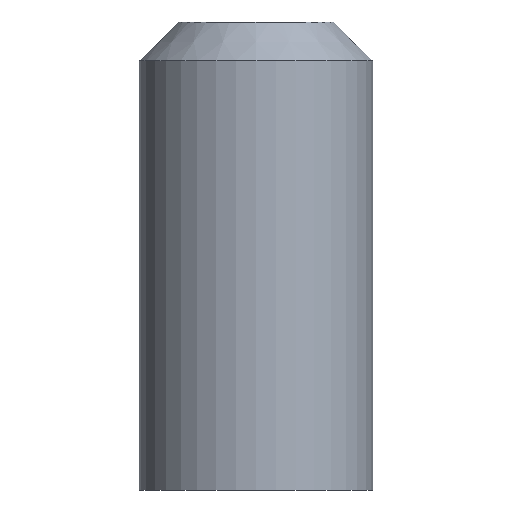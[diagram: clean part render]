
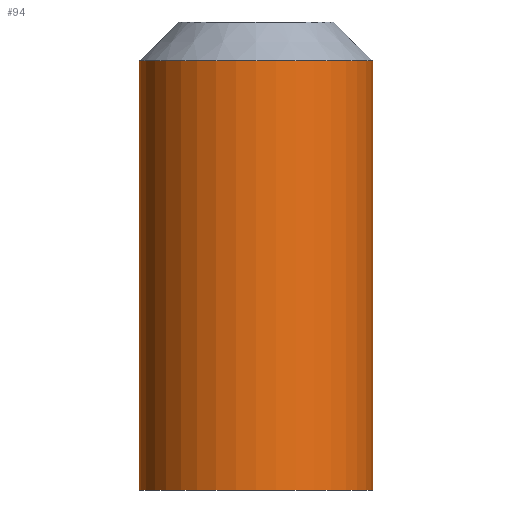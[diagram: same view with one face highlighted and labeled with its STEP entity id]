
A CAD part, front view. The second image highlights one B-rep face of the part: STEP entity #94.
In plain terms, the highlighted cylindrical face has radius 3 mm (diameter 6 mm), a full revolution.
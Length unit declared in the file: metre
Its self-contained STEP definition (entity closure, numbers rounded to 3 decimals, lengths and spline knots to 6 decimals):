
#13=CYLINDRICAL_SURFACE('',#152,0.003);
#14=CIRCLE('',#147,0.003);
#15=CIRCLE('',#149,0.003);
#17=CIRCLE('',#153,0.003);
#31=ORIENTED_EDGE('',*,*,#47,.T.);
#32=ORIENTED_EDGE('',*,*,#49,.T.);
#33=ORIENTED_EDGE('',*,*,#44,.T.);
#34=ORIENTED_EDGE('',*,*,#46,.T.);
#35=ORIENTED_EDGE('',*,*,#42,.T.);
#42=EDGE_CURVE('',#53,#52,#58,.T.);
#44=EDGE_CURVE('',#55,#54,#60,.T.);
#46=EDGE_CURVE('',#54,#53,#14,.T.);
#47=EDGE_CURVE('',#56,#56,#15,.T.);
#49=EDGE_CURVE('',#52,#55,#17,.T.);
#52=VERTEX_POINT('',#190);
#53=VERTEX_POINT('',#192);
#54=VERTEX_POINT('',#194);
#55=VERTEX_POINT('',#196);
#56=VERTEX_POINT('',#205);
#58=LINE('',#191,#62);
#60=LINE('',#195,#64);
#62=VECTOR('',#160,1.);
#64=VECTOR('',#162,1.);
#69=EDGE_LOOP('',(#31));
#70=EDGE_LOOP('',(#32,#33,#34,#35));
#76=FACE_BOUND('',#69,.T.);
#77=FACE_BOUND('',#70,.T.);
#94=ADVANCED_FACE('',(#76,#77),#13,.T.);
#147=AXIS2_PLACEMENT_3D('',#202,#165,#166);
#149=AXIS2_PLACEMENT_3D('',#204,#169,#170);
#152=AXIS2_PLACEMENT_3D('',#208,#175,#176);
#153=AXIS2_PLACEMENT_3D('',#209,#177,#178);
#160=DIRECTION('',(0.,0.,1.));
#162=DIRECTION('',(0.,0.,-1.));
#165=DIRECTION('',(0.,0.,-1.));
#166=DIRECTION('',(-1.,0.,0.));
#169=DIRECTION('',(0.,0.,1.));
#170=DIRECTION('',(1.,0.,0.));
#175=DIRECTION('',(0.,0.,-1.));
#176=DIRECTION('',(-1.,0.,0.));
#177=DIRECTION('',(0.,0.,-1.));
#178=DIRECTION('',(1.,0.,0.));
#190=CARTESIAN_POINT('',(-0.075422,-0.053656,0.033));
#191=CARTESIAN_POINT('',(-0.075422,-0.053656,0.034));
#192=CARTESIAN_POINT('',(-0.075422,-0.053656,0.024));
#194=CARTESIAN_POINT('',(-0.080618,-0.053656,0.024));
#195=CARTESIAN_POINT('',(-0.080618,-0.053656,0.034));
#196=CARTESIAN_POINT('',(-0.080618,-0.053656,0.033));
#202=CARTESIAN_POINT('',(-0.07802,-0.055156,0.024));
#204=CARTESIAN_POINT('',(-0.07802,-0.055156,0.022));
#205=CARTESIAN_POINT('',(-0.07502,-0.055156,0.022));
#208=CARTESIAN_POINT('',(-0.07802,-0.055156,0.034));
#209=CARTESIAN_POINT('',(-0.07802,-0.055156,0.033));
